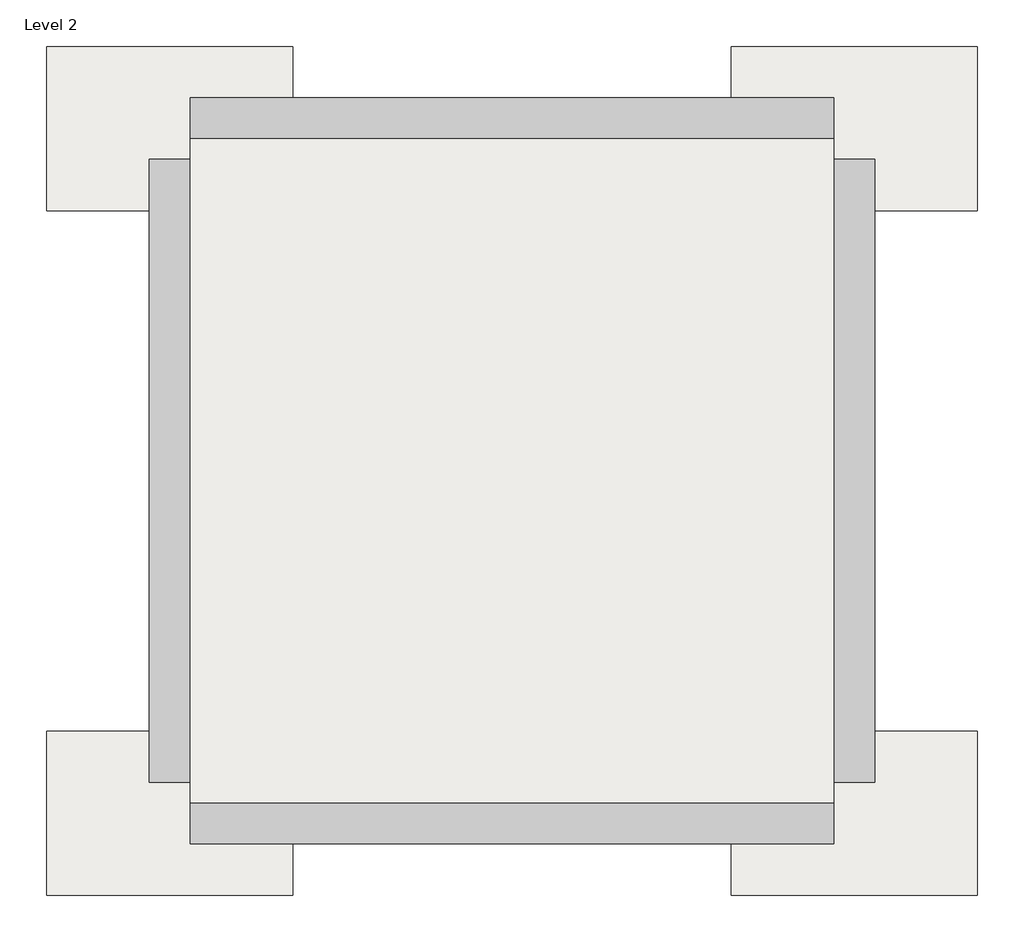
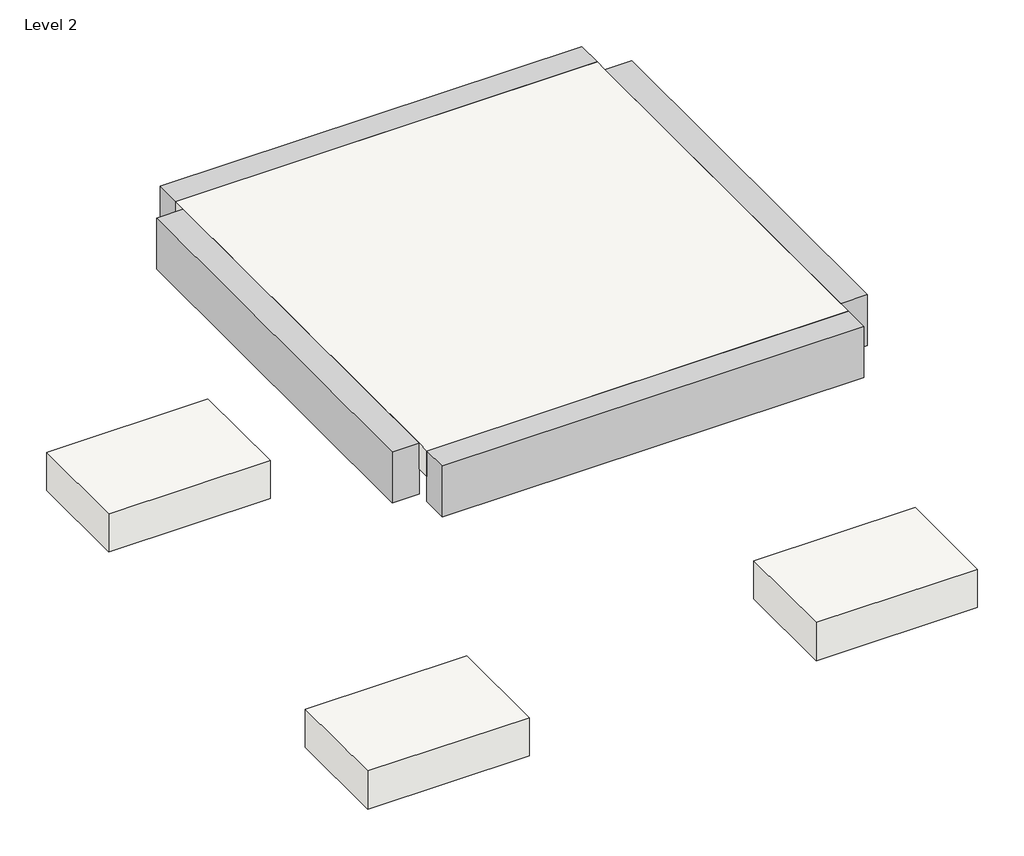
# One storey: 5 slabs, 4 beams.
"""IFC4 building model written with IfcOpenShell, lengths in millimetres."""

from ifc_helpers import new_model, si_unit, frame, origin, place, context, project, spatial, polyline, outline, extrude, faceted_brep, transform, mapped, element, save
from components import m_footing_rectangular_1800_x_1200_x_450mm_16ba7ea5

model = new_model("IFC4")

# Units and contexts
model_context = context("Model", 3, world=origin())
ifc_project = project(units=[si_unit("LENGTHUNIT", "METRE", prefix="MILLI")], contexts=[model_context])

# Site, building, storey
site = spatial("IfcSite", under=ifc_project)
building = spatial("IfcBuilding", under=site)
storey = spatial("IfcBuildingStorey", under=building, Name="Level 2", Elevation=3000.0)

# Beams
placement = place(None, origin())
element("IfcBeam", 1, ObjectType="M_Concrete-Rectangular Beam : 300 x 600mm", at=placement, inside=storey, context=model_context, shape_type="SweptSolid", body=[
    extrude(outline(polyline([(-7412.5699354, 6910.0848928), (-7112.5699354, 6910.0848928), (-7112.5699354, 2360.0848928), (-7412.5699354, 2360.0848928), (-7412.5699354, 6910.0848928)])), frame((0.0, 0.0, 2400.0), z_axis=(0.0, 0.0, 1.0), x_axis=(1.0, 0.0, 0.0)), (0.0, 0.0, 1.0), 600.0),
])
element("IfcBeam", 2, ObjectType="M_Concrete-Rectangular Beam : 300 x 600mm", at=placement, inside=storey, context=model_context, shape_type="Brep", body=[
    faceted_brep([(-7112.5699354, 7360.0848928, 3000.0), (-7112.5699354, 7060.0848928, 3000.0), (-2412.5699354, 7060.0848928, 3000.0), (-2412.5699354, 7360.0848928, 3000.0), (-7112.5699354, 7060.0848928, 2700.0), (-7112.5699354, 7060.0848928, 2400.0), (-2412.5699354, 7060.0848928, 2400.0), (-2412.5699354, 7060.0848928, 2700.0), (-7112.5699354, 7360.0848928, 2400.0), (-2412.5699354, 7360.0848928, 2400.0)], [[[0, 1, 2, 3]], [[1, 4, 5, 6, 7, 2]], [[5, 8, 9, 6]], [[8, 0, 3, 9]], [[5, 4, 1, 0, 8]], [[3, 2, 7, 6, 9]]]),
])
element("IfcBeam", 3, ObjectType="M_Concrete-Rectangular Beam : 300 x 600mm", at=placement, inside=storey, context=model_context, shape_type="SweptSolid", body=[
    extrude(outline(polyline([(-2412.5699354, 6910.0848928), (-2112.5699354, 6910.0848928), (-2112.5699354, 2360.0848928), (-2412.5699354, 2360.0848928), (-2412.5699354, 6910.0848928)])), frame((0.0, 0.0, 2400.0), z_axis=(0.0, 0.0, 1.0), x_axis=(1.0, 0.0, 0.0)), (0.0, 0.0, 1.0), 600.0),
])
element("IfcBeam", 4, ObjectType="M_Concrete-Rectangular Beam : 300 x 600mm", at=placement, inside=storey, context=model_context, shape_type="Brep", body=[
    faceted_brep([(-2412.5699354, 1910.0848928, 3000.0), (-2412.5699354, 2210.0848928, 3000.0), (-7112.5699354, 2210.0848928, 3000.0), (-7112.5699354, 1910.0848928, 3000.0), (-2412.5699354, 2210.0848928, 2700.0), (-2412.5699354, 2210.0848928, 2400.0), (-7112.5699354, 2210.0848928, 2400.0), (-7112.5699354, 2210.0848928, 2700.0), (-2412.5699354, 1910.0848928, 2400.0), (-7112.5699354, 1910.0848928, 2400.0)], [[[0, 1, 2, 3]], [[1, 4, 5, 6, 7, 2]], [[5, 8, 9, 6]], [[8, 0, 3, 9]], [[5, 4, 1, 0, 8]], [[2, 7, 6, 9, 3]]]),
])

# Slabs
element("IfcSlab", 5, ObjectType="Generic 300mm", at=placement, inside=storey, context=model_context, shape_type="Brep", body=[
    faceted_brep([(-2412.5699354, 7060.0848928, 2700.0), (-2412.5699354, 2210.0848928, 2700.0), (-7112.5699354, 2210.0848928, 2700.0), (-7112.5699354, 7060.0848928, 2700.0), (-2412.5699354, 7060.0848928, 3000.0), (-7112.5699354, 7060.0848928, 3000.0), (-7112.5699354, 6910.0848928, 3000.0), (-7112.5699354, 2360.0848928, 3000.0), (-7112.5699354, 2210.0848928, 3000.0), (-2412.5699354, 2210.0848928, 3000.0), (-2412.5699354, 2360.0848928, 3000.0), (-2412.5699354, 6910.0848928, 3000.0)], [[[0, 1, 2, 3]], [[4, 5, 6, 7, 8, 9, 10, 11]], [[1, 0, 4, 11, 10, 9]], [[2, 1, 9, 8]], [[3, 2, 8, 7, 6, 5]], [[0, 3, 5, 4]]]),
])
m_footing_rectangular_1800_x_1200_x_450mm_shape = m_footing_rectangular_1800_x_1200_x_450mm_16ba7ea5(model_context)
element("IfcSlab", 6, ObjectType="M_Footing-Rectangular : 1800 x 1200 x 450mm", at=placement, inside=storey, context=model_context, shape_type="MappedRepresentation", body=[
    mapped(m_footing_rectangular_1800_x_1200_x_450mm_shape, transform((-7262.5699354, 7135.0848928, 0.0), x_axis=(0.0, 1.0, 0.0), y_axis=(-1.0, 0.0, 0.0), z_axis=(0.0, 0.0, 1.0))),
])
element("IfcSlab", 7, ObjectType="M_Footing-Rectangular : 1800 x 1200 x 450mm", at=placement, inside=storey, context=model_context, shape_type="MappedRepresentation", body=[
    mapped(m_footing_rectangular_1800_x_1200_x_450mm_shape, transform((-2262.5699354, 7135.0848928, 0.0), x_axis=(0.0, 1.0, 0.0), y_axis=(-1.0, 0.0, 0.0), z_axis=(0.0, 0.0, 1.0))),
])
element("IfcSlab", 8, ObjectType="M_Footing-Rectangular : 1800 x 1200 x 450mm", at=placement, inside=storey, context=model_context, shape_type="MappedRepresentation", body=[
    mapped(m_footing_rectangular_1800_x_1200_x_450mm_shape, transform((-7262.5699354, 2135.0848928, 0.0), x_axis=(0.0, 1.0, 0.0), y_axis=(-1.0, 0.0, 0.0), z_axis=(0.0, 0.0, 1.0))),
])
element("IfcSlab", 9, ObjectType="M_Footing-Rectangular : 1800 x 1200 x 450mm", at=placement, inside=storey, context=model_context, shape_type="MappedRepresentation", body=[
    mapped(m_footing_rectangular_1800_x_1200_x_450mm_shape, transform((-2262.5699354, 2135.0848928, 0.0), x_axis=(0.0, 1.0, 0.0), y_axis=(-1.0, 0.0, 0.0), z_axis=(0.0, 0.0, 1.0))),
])

save(model, "model.ifc")
